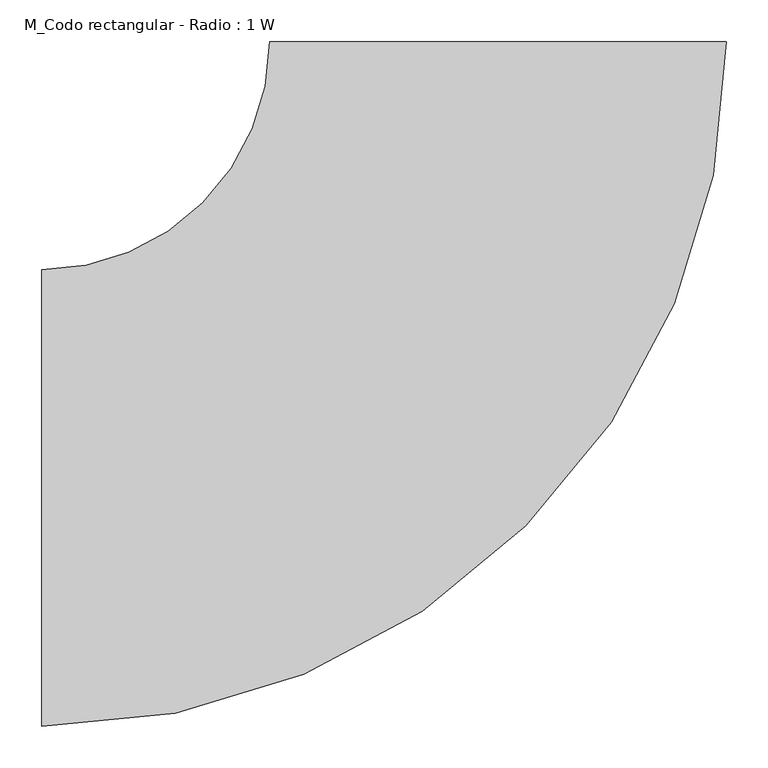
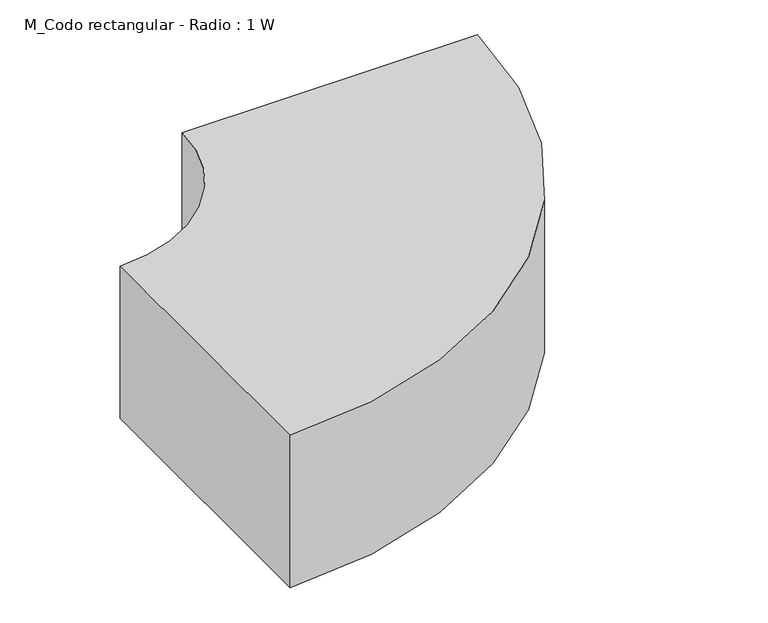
"""IFC4 building model written with IfcOpenShell, lengths in millimetres: duct fitting geometry, M_Codo rectangular - Radio : 1 W."""

from ifc_helpers import new_model, si_unit, point, frame, frame_2d, origin, place, context, project, spatial, polyline, circle_curve, trimmed, segment, composite_curve, outline, extrude, source, transform, mapped, element, save


def m_codo_rectangular_radio_1_w_bc5d9aef(model_context):
    return source(origin(), model_context, "Body", "SweptSolid", [
        extrude(outline(composite_curve([segment(trimmed(circle_curve(frame_2d((-550.0, 550.0)), 825.0), [point((275.0, 550.0))], [point((-550.0, -275.0))], False, "CARTESIAN"), True, "CONTINUOUS"), segment(polyline([(-550.0, -275.0), (-550.0, 275.0)]), True, "CONTINUOUS"), segment(trimmed(circle_curve(frame_2d((-550.0, 550.0)), 275.0), [point((-550.0, 275.0))], [point((-275.0, 550.0))], True, "CARTESIAN"), True, "CONTINUOUS"), segment(polyline([(-275.0, 550.0), (275.0, 550.0)]), True, "CONTINUOUS")], self_intersect=False)), frame((0.0, 0.0, -150.0), z_axis=(0.0, 0.0, 1.0), x_axis=(1.0, 0.0, 0.0)), (0.0, 0.0, 1.0), 300.0),
    ])


if __name__ == "__main__":
    model = new_model("IFC4")
    model_context = context("Model", 3, world=origin())
    ifc_project = project(units=[si_unit("LENGTHUNIT", "METRE", prefix="MILLI")], contexts=[model_context])
    site = spatial("IfcSite", under=ifc_project)
    building = spatial("IfcBuilding", under=site)
    placement = place(None, origin())
    m_codo_rectangular_radio_1_w_shape = m_codo_rectangular_radio_1_w_bc5d9aef(model_context)
    element("IfcDuctFitting", 1, ObjectType="M_Codo rectangular - Radio : 1 W", at=placement, inside=building, context=model_context, shape_type="MappedRepresentation", body=[
        mapped(m_codo_rectangular_radio_1_w_shape, transform((0.0, 0.0, 0.0), x_axis=(1.0, 0.0, 0.0), y_axis=(0.0, 1.0, 0.0), z_axis=(0.0, 0.0, 1.0))),
    ])
    save(model, "model.ifc")
